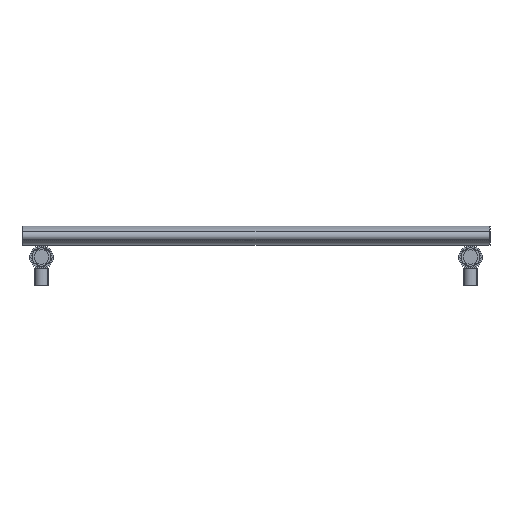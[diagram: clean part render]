
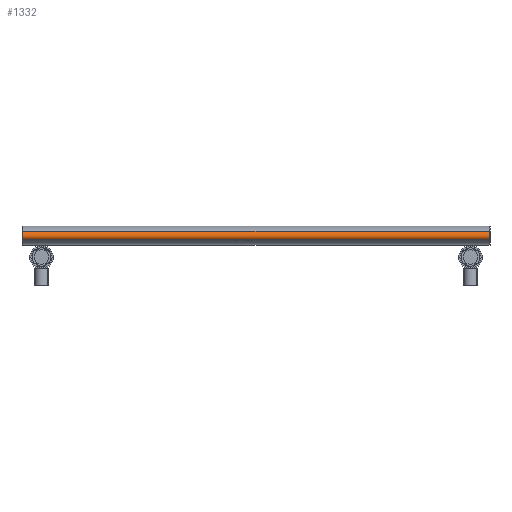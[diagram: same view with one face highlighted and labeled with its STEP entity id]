
A CAD part, front view. The second image highlights one B-rep face of the part: STEP entity #1332.
In plain terms, the highlighted cylindrical face has radius 7.112 mm (diameter 14.225 mm), a partial arc.
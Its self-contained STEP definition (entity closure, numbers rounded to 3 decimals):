
#160=LINE('',#3784,#192);
#162=LINE('',#3798,#194);
#192=VECTOR('',#1636,10.);
#194=VECTOR('',#1654,10.);
#275=CIRCLE('',#1453,7.112);
#278=CIRCLE('',#1459,7.112);
#429=FACE_OUTER_BOUND('',#570,.T.);
#570=EDGE_LOOP('',(#1135,#1136,#1137,#1138));
#768=VERTEX_POINT('',#3781);
#769=VERTEX_POINT('',#3783);
#771=VERTEX_POINT('',#3789);
#773=VERTEX_POINT('',#3797);
#896=EDGE_CURVE('',#769,#768,#160,.T.);
#900=EDGE_CURVE('',#771,#768,#275,.T.);
#903=EDGE_CURVE('',#773,#771,#162,.T.);
#905=EDGE_CURVE('',#769,#773,#278,.T.);
#1135=ORIENTED_EDGE('',*,*,#896,.T.);
#1136=ORIENTED_EDGE('',*,*,#900,.F.);
#1137=ORIENTED_EDGE('',*,*,#903,.F.);
#1138=ORIENTED_EDGE('',*,*,#905,.F.);
#1289=CYLINDRICAL_SURFACE('',#1458,7.112);
#1332=ADVANCED_FACE('',(#429),#1289,.T.);
#1453=AXIS2_PLACEMENT_3D('',#3791,#1645,#1646);
#1458=AXIS2_PLACEMENT_3D('',#3800,#1657,#1658);
#1459=AXIS2_PLACEMENT_3D('',#3801,#1659,#1660);
#1636=DIRECTION('',(0.,0.,1.));
#1645=DIRECTION('center_axis',(0.,0.,1.));
#1646=DIRECTION('ref_axis',(-0.552,0.834,0.));
#1654=DIRECTION('',(0.,0.,1.));
#1657=DIRECTION('center_axis',(0.,0.,1.));
#1658=DIRECTION('ref_axis',(-0.552,0.834,0.));
#1659=DIRECTION('center_axis',(0.,0.,-1.));
#1660=DIRECTION('ref_axis',(-0.552,0.834,0.));
#3781=CARTESIAN_POINT('',(-21.816,-18.429,300.));
#3783=CARTESIAN_POINT('',(-21.816,-18.429,-300.));
#3784=CARTESIAN_POINT('',(-21.816,-18.429,0.));
#3789=CARTESIAN_POINT('',(-21.816,-6.571,300.));
#3791=CARTESIAN_POINT('Origin',(-17.888,-12.5,300.));
#3797=CARTESIAN_POINT('',(-21.816,-6.571,-300.));
#3798=CARTESIAN_POINT('',(-21.816,-6.571,0.));
#3800=CARTESIAN_POINT('Origin',(-17.888,-12.5,0.));
#3801=CARTESIAN_POINT('Origin',(-17.888,-12.5,-300.));
